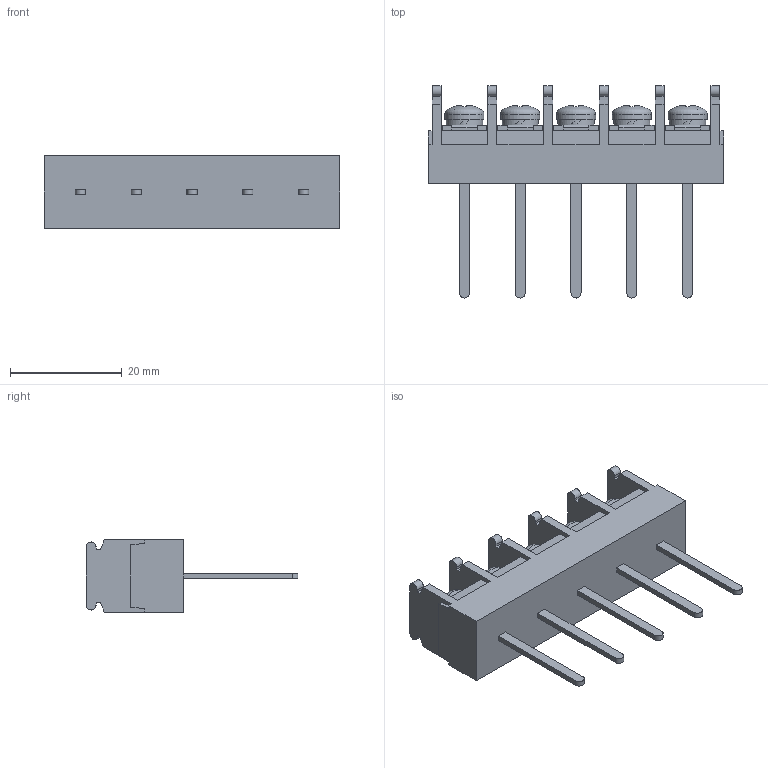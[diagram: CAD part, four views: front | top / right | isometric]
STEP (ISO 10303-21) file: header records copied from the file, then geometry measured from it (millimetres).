
FILE_DESCRIPTION(/* description */ ('Alibre Inc.'),/* implementation_level */ '2;1');
FILE_NAME(/* name */ 'export0',/* time_stamp */ '2015-10-17T19:23:13+09:00',/* author */ (''),/* organization */ (''),/* preprocessor_version */ 'ST-DEVELOPER v14',/* originating_system */ 'Alibre',/* authorisation */ '');
FILE_SCHEMA (('CONFIG_CONTROL_DESIGN'));
Length unit declared in the file: centimetre
Products named in the file (1): ID_1
Bounding box: 53 x 38 x 13 mm (x, y, z)
Volume: 8317.7 mm3; surface area: 5333 mm2
Topology: 1 solids, 17 shells, 719 faces, 1935 edges, 1285 vertices
Faces by surface type: plane 538, bspline 104, cylinder 42, cone 20, torus 10, sphere 5
Full cylindrical faces by diameter (mm): 4 x5, 6.5 x5, 7 x5
Entity records: 21806 total; most frequent: CARTESIAN_POINT 4981, ORIENTED_EDGE 3800, DIRECTION 2570, EDGE_CURVE 1900, VECTOR 1428, LINE 1428, VERTEX_POINT 1270, AXIS2_PLACEMENT_3D 835
